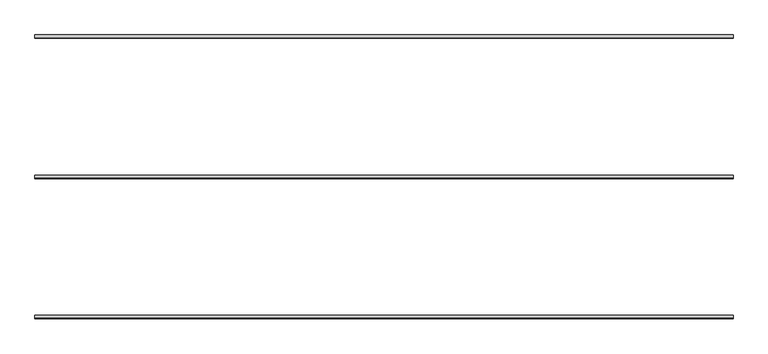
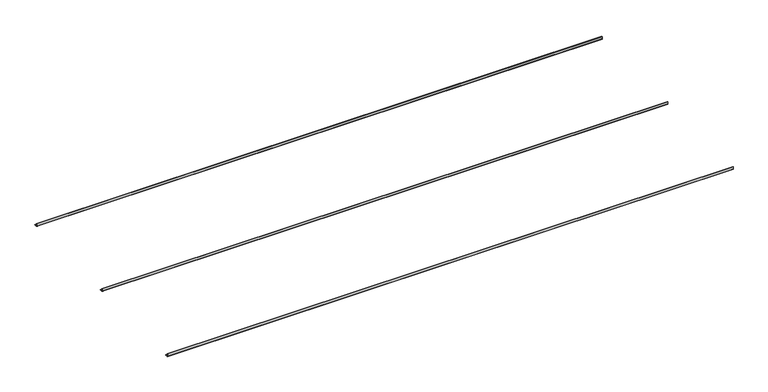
"""IFC4 building model written with IfcOpenShell, lengths in millimetres: proxy geometry, durlum_S7_DOMUS : durlum_S7_DOMUS."""

import ifcopenshell
import ifcopenshell.guid

model = None  # the IFC model being written
_history = None  # IfcOwnerHistory: only IFC2X3 demands one
_inside = {}  # id of a spatial element -> (the spatial element, [elements in it])
_under = {}  # id of a project, library or spatial element -> (it, [spatial elements below it])
_declared = {}  # id of a project -> (the project, [libraries it declares])
_typed = {}  # id of a type object -> (the type object, [elements of that type])
_made_of = {}  # id of a material, layer set ... -> (it, [elements and type objects made of it])


def new_model(schema):
    """Start an empty IFC model of exactly this schema.

    Asked for "IFC4X3", IfcOpenShell would pick the latest addendum, in which some entities
    have other attributes; the version numbers below select the first issue.
    IFC2X3 requires an IfcOwnerHistory on every rooted entity: one is made here for all.
    """
    global model, _history
    if schema == "IFC4X3":
        model = ifcopenshell.file(schema_version=(4, 3, 0, 0))
    else:
        model = ifcopenshell.file(schema=schema)
    _inside.clear()
    _under.clear()
    _declared.clear()
    _typed.clear()
    _made_of.clear()
    _history = None
    if model.schema == "IFC2X3":
        org = make("IfcOrganization", Name="unknown")
        user = make(
            "IfcPersonAndOrganization",
            ThePerson=make("IfcPerson", FamilyName="unknown"),
            TheOrganization=org,
        )
        app = make(
            "IfcApplication",
            ApplicationDeveloper=org,
            Version="unknown",
            ApplicationFullName="unknown",
            ApplicationIdentifier="unknown",
        )
        _history = make(
            "IfcOwnerHistory",
            OwningUser=user,
            OwningApplication=app,
            ChangeAction="ADDED",
            CreationDate=0,
        )
    return model


def make(cls, **values):
    """One entity of the class cls with the attributes given. An attribute that is None is left unset."""
    return model.create_entity(
        cls, **{name: value for name, value in values.items() if value is not None}
    )


def rooted(cls, **values):
    """An entity with a GlobalId (a new one), such as an element, a storey or a relation."""
    return make(cls, GlobalId=ifcopenshell.guid.new(), OwnerHistory=_history, **values)


def si_unit(unit_type, name, prefix=None):
    """IfcSIUnit, for example si_unit("LENGTHUNIT", "METRE", prefix="MILLI")."""
    return make("IfcSIUnit", UnitType=unit_type, Prefix=prefix, Name=name)


def assignment(units):
    """IfcUnitAssignment: the units of a project."""
    return None if units is None else make("IfcUnitAssignment", Units=units)


def point(xyz):
    """IfcCartesianPoint."""
    return None if xyz is None else make("IfcCartesianPoint", Coordinates=xyz)


def direction(xyz):
    """IfcDirection."""
    return None if xyz is None else make("IfcDirection", DirectionRatios=xyz)


def frame(location, z_axis=None, x_axis=None):
    """IfcAxis2Placement3D, a coordinate frame: its origin and axes. An axis left out is left unset."""
    return make(
        "IfcAxis2Placement3D",
        Location=point(location),
        Axis=direction(z_axis),
        RefDirection=direction(x_axis),
    )


def frame_2d(location, x_axis=None):
    """IfcAxis2Placement2D, a coordinate frame in the plane: its origin and x axis."""
    return make(
        "IfcAxis2Placement2D", Location=point(location), RefDirection=direction(x_axis)
    )


def origin():
    """The frame at (0, 0, 0) with its axes left unset."""
    return frame((0.0, 0.0, 0.0))


def place(relative_to, where):
    """IfcLocalPlacement: puts the frame where relative to a parent placement (None: the world)."""
    return make(
        "IfcLocalPlacement", PlacementRelTo=relative_to, RelativePlacement=where
    )


def context(
    kind, dimensions, precision=None, world=None, true_north=None, identifier=None
):
    """IfcGeometricRepresentationContext, for example the 3D "Model" context."""
    return make(
        "IfcGeometricRepresentationContext",
        ContextIdentifier=identifier,
        ContextType=kind,
        CoordinateSpaceDimension=dimensions,
        Precision=precision,
        WorldCoordinateSystem=world,
        TrueNorth=true_north,
    )


def project(units=None, contexts=None):
    """IfcProject with its units and contexts."""
    return rooted(
        "IfcProject",
        Name="project",
        RepresentationContexts=contexts,
        UnitsInContext=assignment(units),
    )


def spatial(cls, under=None, at=None, **own):
    """A site, building, storey or space (cls), placed at a placement, below another one or the project."""
    s = rooted(cls, ObjectPlacement=at, **own)
    if under is not None:
        _under.setdefault(under.id(), (under, []))[1].append(s)
    return s


def polyline(points):
    """IfcPolyline through the points."""
    return make("IfcPolyline", Points=[point(p) for p in points])


def circle_curve(where, radius):
    """IfcCircle in the frame where."""
    return make("IfcCircle", Position=where, Radius=radius)


def trimmed(basis, trim1, trim2, sense, master):
    """IfcTrimmedCurve: the piece of a basis curve between two trims."""
    return make(
        "IfcTrimmedCurve",
        BasisCurve=basis,
        Trim1=trim1,
        Trim2=trim2,
        SenseAgreement=sense,
        MasterRepresentation=master,
    )


def segment(curve, same_sense, transition):
    """IfcCompositeCurveSegment."""
    return make(
        "IfcCompositeCurveSegment",
        Transition=transition,
        SameSense=same_sense,
        ParentCurve=curve,
    )


def composite_curve(segments, self_intersect=None):
    """IfcCompositeCurve: segments joined end to end."""
    return make("IfcCompositeCurve", Segments=segments, SelfIntersect=self_intersect)


def outline(outer, holes=None, kind="AREA"):
    """IfcArbitraryClosedProfileDef: a profile drawn as a closed curve; with holes, ...WithVoids."""
    if holes is None:
        return make("IfcArbitraryClosedProfileDef", ProfileType=kind, OuterCurve=outer)
    return make(
        "IfcArbitraryProfileDefWithVoids",
        ProfileType=kind,
        OuterCurve=outer,
        InnerCurves=holes,
    )


def extrude(swept, where, along, depth):
    """IfcExtrudedAreaSolid: the profile swept, set in the frame where, extruded along a direction by depth."""
    return make(
        "IfcExtrudedAreaSolid",
        SweptArea=swept,
        Position=where,
        ExtrudedDirection=direction(along),
        Depth=depth,
    )


def shape(context_of_items, identifier, shape_type, items):
    """IfcShapeRepresentation: the items that make up one representation, for example the "Body"."""
    return make(
        "IfcShapeRepresentation",
        ContextOfItems=context_of_items,
        RepresentationIdentifier=identifier,
        RepresentationType=shape_type,
        Items=items,
    )


def source(mapping_origin, context_of_items, identifier, shape_type, items):
    """IfcRepresentationMap: a shape defined once, which mapped items show again and again."""
    return make(
        "IfcRepresentationMap",
        MappingOrigin=mapping_origin,
        MappedRepresentation=shape(context_of_items, identifier, shape_type, items),
    )


def transform(
    local_origin,
    x_axis=None,
    y_axis=None,
    z_axis=None,
    scale=None,
    scale2=None,
    scale3=None,
    uniform=True,
):
    """IfcCartesianTransformationOperator3D, or its non-uniform kind. x_axis, y_axis, z_axis: its Axis1, 2, 3."""
    if uniform:
        return make(
            "IfcCartesianTransformationOperator3D",
            Axis1=direction(x_axis),
            Axis2=direction(y_axis),
            LocalOrigin=point(local_origin),
            Scale=scale,
            Axis3=direction(z_axis),
        )
    return make(
        "IfcCartesianTransformationOperator3DnonUniform",
        Axis1=direction(x_axis),
        Axis2=direction(y_axis),
        LocalOrigin=point(local_origin),
        Scale=scale,
        Axis3=direction(z_axis),
        Scale2=scale2,
        Scale3=scale3,
    )


def mapped(mapping_source, mapping_target):
    """IfcMappedItem: shows the shape of a source again, moved by a transform."""
    return make(
        "IfcMappedItem", MappingSource=mapping_source, MappingTarget=mapping_target
    )


def made_of(thing, what):
    """Note that an element or type object is made of a material, layer set ...; save() writes the relation."""
    if what is not None:
        _made_of.setdefault(what.id(), (what, []))[1].append(thing)
    return thing


def element(
    cls,
    number,
    at=None,
    inside=None,
    cuts=None,
    type_object=None,
    material=None,
    context=None,
    identifier="Body",
    shape_type=None,
    held_by="IfcProductDefinitionShape",
    body=None,
    shapes=None,
    **own,
):
    """One element of the class cls, such as IfcWall. Its Tag is "e" and its number.

    at: its placement. inside: the storey or other place that contains it. cuts: it is an
    opening in that element (IfcRelVoidsElement). A single representation is given by context,
    identifier, shape_type and body (its items); several are given by shapes. held_by: the class
    of the entity that holds the representations. save() writes the other relations.
    """
    e = rooted(cls, Tag="e%d" % number, ObjectPlacement=at, **own)
    if body is not None:
        shapes = [shape(context, identifier, shape_type, body)]
    if shapes is not None:
        e.Representation = make(held_by, Representations=shapes)
    if inside is not None:
        _inside.setdefault(inside.id(), (inside, []))[1].append(e)
    if cuts is not None:
        rooted(
            "IfcRelVoidsElement", RelatingBuildingElement=cuts, RelatedOpeningElement=e
        )
    if type_object is not None:
        _typed.setdefault(type_object.id(), (type_object, []))[1].append(e)
    return made_of(e, material)


def aggregate(whole, parts):
    """IfcRelAggregates: a whole, such as a stair, and the parts it consists of."""
    return rooted("IfcRelAggregates", RelatingObject=whole, RelatedObjects=parts)


def save(model, path):
    """Write the relations noted so far, then the file.

    IfcRelAggregates (storeys below a building ...), IfcRelContainedInSpatialStructure (elements
    in a storey), IfcRelDefinesByType, IfcRelAssociatesMaterial and IfcRelDeclares: one each for
    every whole, place, type object, material and project.
    """
    for whole, parts in _under.values():
        aggregate(whole, parts)
    for where, things in _inside.values():
        rooted(
            "IfcRelContainedInSpatialStructure",
            RelatedElements=things,
            RelatingStructure=where,
        )
    for kind, things in _typed.values():
        rooted("IfcRelDefinesByType", RelatedObjects=things, RelatingType=kind)
    for what, things in _made_of.values():
        rooted("IfcRelAssociatesMaterial", RelatedObjects=things, RelatingMaterial=what)
    for by, libraries in _declared.values():
        rooted("IfcRelDeclares", RelatingContext=by, RelatedDefinitions=libraries)
    model.write(path)


def generic_models_e8bac300(model_context):
    return source(origin(), model_context, "Body", "SweptSolid", [
        extrude(outline(composite_curve([segment(polyline([(2.0, 3892.9), (2.0, 3867.0)]), True, "CONTINUOUS"), segment(trimmed(circle_curve(frame_2d((4.0, 3867.0)), 2.0), [point((2.0, 3867.0))], [point((4.0, 3865.0))], True, "CARTESIAN"), True, "CONTINUOUS"), segment(polyline([(4.0, 3865.0), (29.9, 3865.0), (29.9, 3863.0), (4.0, 3863.0)]), True, "CONTINUOUS"), segment(trimmed(circle_curve(frame_2d((4.0, 3867.0)), 4.0), [point((4.0, 3863.0))], [point((0.0, 3867.0))], False, "CARTESIAN"), True, "CONTINUOUS"), segment(polyline([(0.0, 3867.0), (0.0, 3892.9), (2.0, 3892.9)]), True, "CONTINUOUS")], self_intersect=False)), frame((-2990.0, 0.0, 0.0), z_axis=(1.0, 0.0, 0.0), x_axis=(0.0, 1.0, 0.0)), (0.0, 0.0, 1.0), 5980.0),
        extrude(outline(composite_curve([segment(polyline([(1202.0, 3892.9), (1202.0, 3867.0)]), True, "CONTINUOUS"), segment(trimmed(circle_curve(frame_2d((1204.0, 3867.0)), 2.0), [point((1202.0, 3867.0))], [point((1204.0, 3865.0))], True, "CARTESIAN"), True, "CONTINUOUS"), segment(polyline([(1204.0, 3865.0), (1229.9, 3865.0), (1229.9, 3863.0), (1204.0, 3863.0)]), True, "CONTINUOUS"), segment(trimmed(circle_curve(frame_2d((1204.0, 3867.0)), 4.0), [point((1204.0, 3863.0))], [point((1200.0, 3867.0))], False, "CARTESIAN"), True, "CONTINUOUS"), segment(polyline([(1200.0, 3867.0), (1200.0, 3892.9), (1202.0, 3892.9)]), True, "CONTINUOUS")], self_intersect=False)), frame((-2990.0, 0.0, 0.0), z_axis=(1.0, 0.0, 0.0), x_axis=(0.0, 1.0, 0.0)), (0.0, 0.0, 1.0), 5980.0),
        extrude(outline(composite_curve([segment(polyline([(-1198.0, 3892.9), (-1198.0, 3867.0)]), True, "CONTINUOUS"), segment(trimmed(circle_curve(frame_2d((-1196.0, 3867.0)), 2.0), [point((-1198.0, 3867.0))], [point((-1196.0, 3865.0))], True, "CARTESIAN"), True, "CONTINUOUS"), segment(polyline([(-1196.0, 3865.0), (-1170.1, 3865.0), (-1170.1, 3863.0), (-1196.0, 3863.0)]), True, "CONTINUOUS"), segment(trimmed(circle_curve(frame_2d((-1196.0, 3867.0)), 4.0), [point((-1196.0, 3863.0))], [point((-1200.0, 3867.0))], False, "CARTESIAN"), True, "CONTINUOUS"), segment(polyline([(-1200.0, 3867.0), (-1200.0, 3892.9), (-1198.0, 3892.9)]), True, "CONTINUOUS")], self_intersect=False)), frame((-2990.0, 0.0, 0.0), z_axis=(1.0, 0.0, 0.0), x_axis=(0.0, 1.0, 0.0)), (0.0, 0.0, 1.0), 5980.0),
    ])


if __name__ == "__main__":
    model = new_model("IFC4")
    model_context = context("Model", 3, world=origin())
    ifc_project = project(units=[si_unit("LENGTHUNIT", "METRE", prefix="MILLI")], contexts=[model_context])
    site = spatial("IfcSite", under=ifc_project)
    building = spatial("IfcBuilding", under=site)
    placement = place(None, origin())
    generic_models_shape = generic_models_e8bac300(model_context)
    element("IfcBuildingElementProxy", 1, Name="durlum_S7_DOMUS : durlum_S7_DOMUS", ObjectType="durlum_S7_DOMUS : durlum_S7_DOMUS", at=placement, inside=building, context=model_context, shape_type="MappedRepresentation", body=[
        mapped(generic_models_shape, transform((0.0, 0.0, 0.0), x_axis=(1.0, 0.0, 0.0), y_axis=(0.0, 1.0, 0.0), z_axis=(0.0, 0.0, 1.0))),
    ])
    save(model, "model.ifc")
